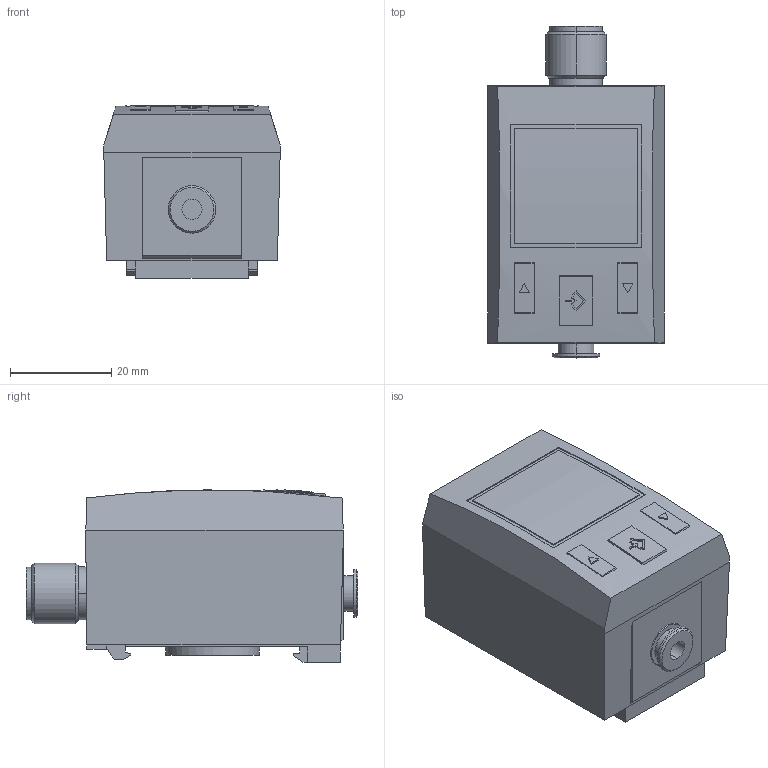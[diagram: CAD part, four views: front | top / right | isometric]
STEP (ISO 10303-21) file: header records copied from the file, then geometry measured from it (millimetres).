
FILE_DESCRIPTION((''),'2;1');
FILE_NAME('R412010766','2019-11-11T',('GIO1HC'),(''),'CREO PARAMETRIC BY PTC INC, 2016260','CREO PARAMETRIC BY PTC INC, 2016260','');
FILE_SCHEMA(('CONFIG_CONTROL_DESIGN'));
Length unit declared in the file: millimetre
Products named in the file (1): R412010766
Bounding box: 35 x 65.72 x 34.1 mm (x, y, z)
Volume: 54060 mm3; surface area: 10377.3 mm2
Topology: 1 solids, 1 shells, 172 faces, 417 edges, 274 vertices
Faces by surface type: plane 126, cylinder 32, cone 14
Entity records: 5094 total; most frequent: CARTESIAN_POINT 917, DIRECTION 849, ORIENTED_EDGE 834, EDGE_CURVE 417, VECTOR 321, LINE 321, VERTEX_POINT 274, AXIS2_PLACEMENT_3D 264
